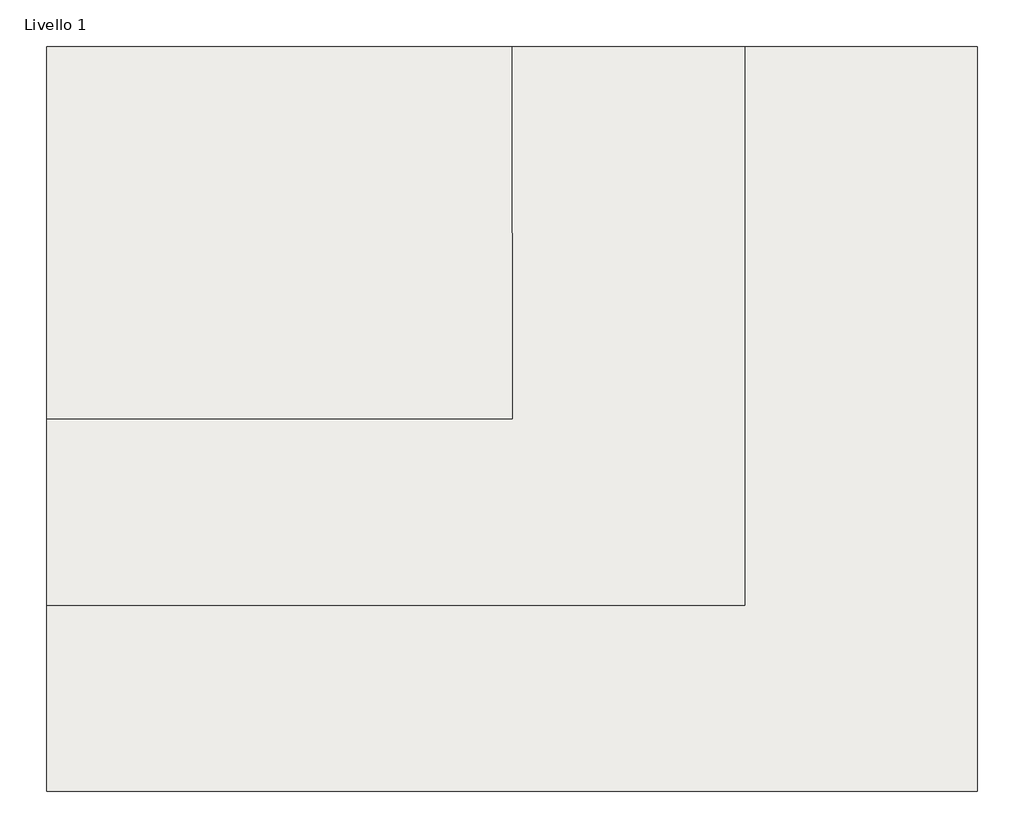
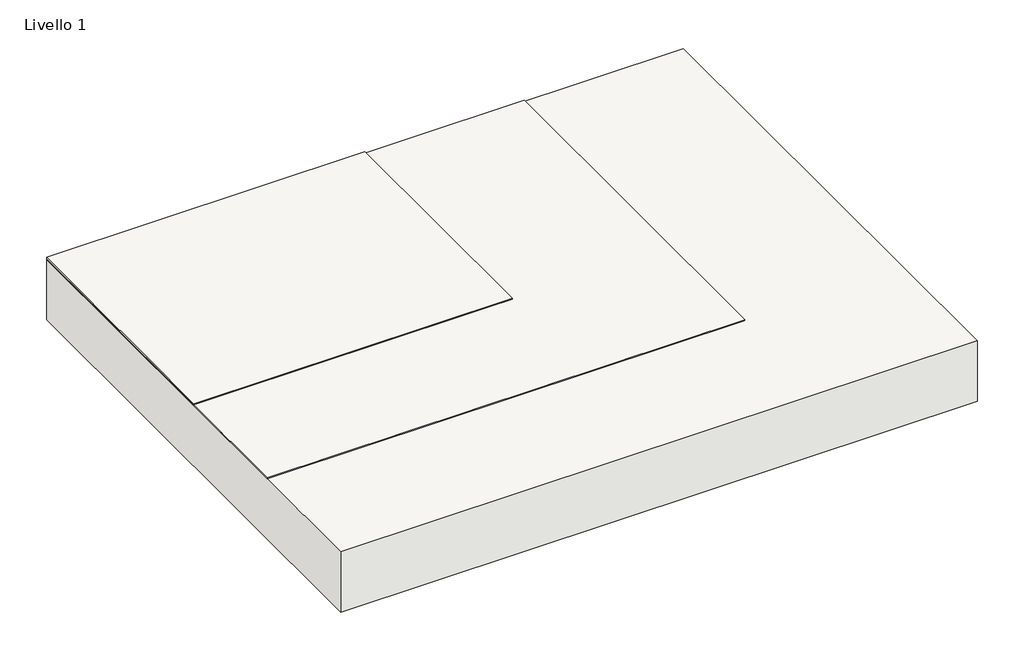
# One storey: 1 slab.
"""IFC4 building model written with IfcOpenShell, lengths in millimetres."""

from ifc_helpers import new_model, si_unit, frame, origin, place, context, project, spatial, polyline, outline, extrude, element, save

model = new_model("IFC4")

# Units and contexts
model_context = context("Model", 3, world=origin())
ifc_project = project(units=[si_unit("LENGTHUNIT", "METRE", prefix="MILLI")], contexts=[model_context])

# Site, building, storey
site = spatial("IfcSite", under=ifc_project)
building = spatial("IfcBuilding", under=site)
storey = spatial("IfcBuildingStorey", under=building, Name="Livello 1", Elevation=0.0)

# Slab
placement = place(None, origin())
element("IfcSlab", 1, ObjectType="POLYGLASS - BM1.0", at=placement, inside=storey, context=model_context, shape_type="SweptSolid", body=[
    extrude(outline(polyline([(1457.7963918, 1184.9122843), (207.7963918, 1184.9122843), (207.7963918, 2184.9122843), (1457.7963918, 2184.9122843), (1457.7963918, 1184.9122843)])), frame((0.0, 0.0, -5.0), z_axis=(0.0, 0.0, 1.0), x_axis=(1.0, 0.0, 0.0)), (0.0, 0.0, 1.0), 5.0),
    extrude(outline(polyline([(2082.7963918, 684.9122843), (207.7963918, 684.9122843), (207.7963918, 2184.9122843), (2082.7963918, 2184.9122843), (2082.7963918, 684.9122843)])), frame((0.0, 0.0, -9.1), z_axis=(0.0, 0.0, 1.0), x_axis=(1.0, 0.0, 0.0)), (0.0, 0.0, 1.0), 4.1),
    extrude(outline(polyline([(2707.7963918, 184.9122843), (207.7963918, 184.9122843), (207.7963918, 2184.9122843), (2707.7963918, 2184.9122843), (2707.7963918, 184.9122843)])), frame((0.0, 0.0, -259.1), z_axis=(0.0, 0.0, 1.0), x_axis=(1.0, 0.0, 0.0)), (0.0, 0.0, 1.0), 250.0),
])

save(model, "model.ifc")
